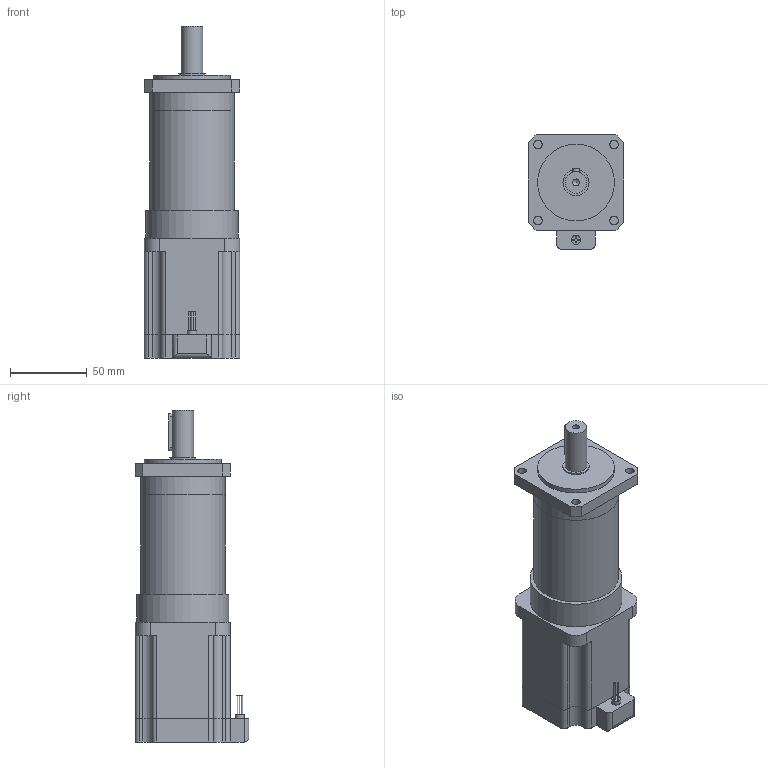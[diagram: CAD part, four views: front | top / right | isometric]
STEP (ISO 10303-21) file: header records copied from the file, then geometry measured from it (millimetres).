
FILE_DESCRIPTION(/* description */ (''),/* implementation_level */ '2;1');
FILE_NAME(/* name */ '62PG015-D44-0478.stp',/* time_stamp */ '2018-08-28T09:25:39+08:00',/* author */ (''),/* organization */ (''),/* preprocessor_version */ 'ST-DEVELOPER v11',/* originating_system */ 'SIEMENS UGS NX 6.0',/* authorisation */ '');
FILE_SCHEMA (('CONFIG_CONTROL_DESIGN'));
Length unit declared in the file: millimetre
Products named in the file (1): 62PG015-D44-0478
Bounding box: 62 x 74 x 216 mm (x, y, z)
Volume: 545552.8 mm3; surface area: 61848.8 mm2
Topology: 3 solids, 3 shells, 110 faces, 279 edges, 187 vertices
Faces by surface type: plane 60, cylinder 49, cone 1
Full cylindrical faces by diameter (mm): 1 x4, 4.5 x1, 5.5 x4, 6 x1, 14 x1, 17 x1, 50 x1, 55 x2, 60 x1
Entity records: 3351 total; most frequent: CARTESIAN_POINT 607, DIRECTION 569, ORIENTED_EDGE 510, EDGE_CURVE 255, AXIS2_PLACEMENT_3D 205, VERTEX_POINT 181, LINE 159, VECTOR 159
